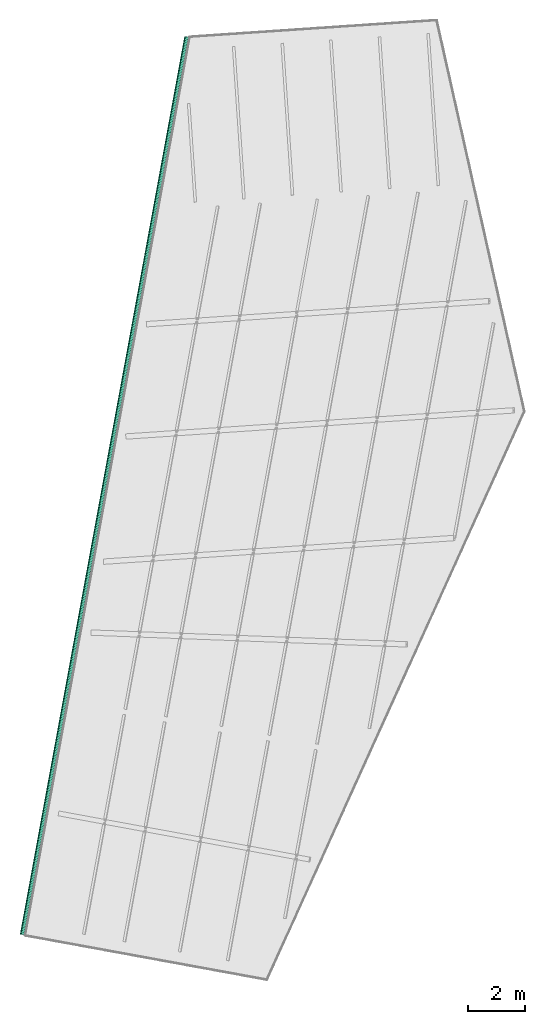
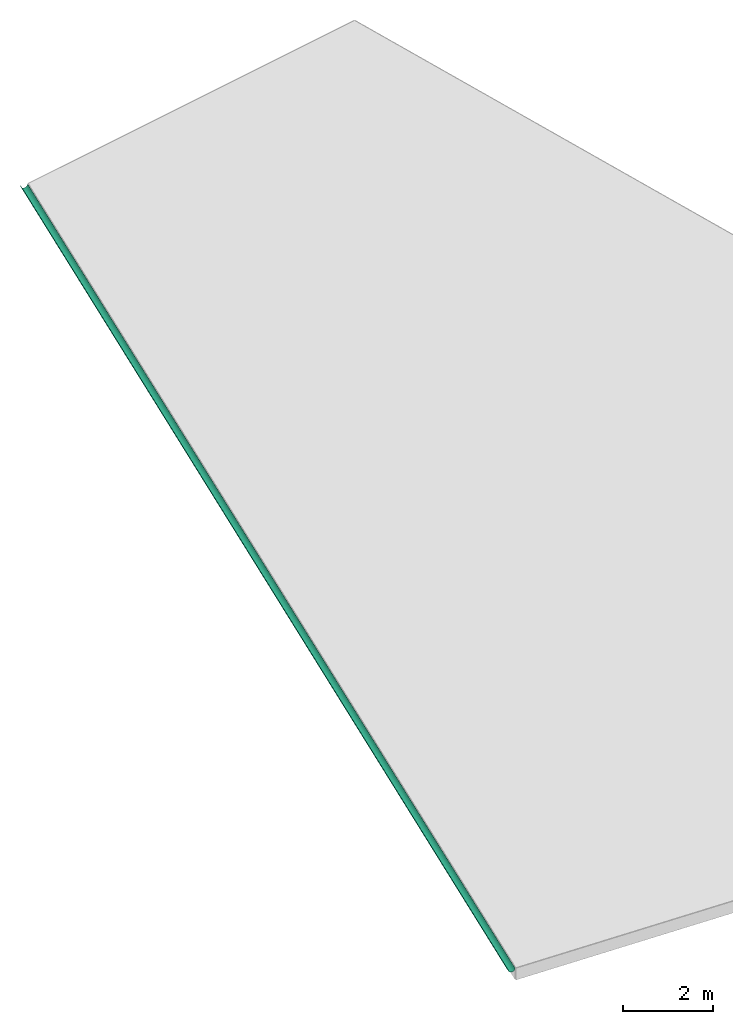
# One storey, part 2 of 3: 1 flow segment.
"""IFC2X3 building model written with IfcOpenShell, lengths in centimetres."""

from ifc_helpers import new_model, entity, si_unit, converted_unit, derived_unit, direction, frame, frame_2d, origin, place, context, subcontext, project, spatial, polyline, circle_curve, parameter, trimmed, segment, composite_curve, outline, extrude, source, transform, mapped, type_object, type_shapes, element, save


model = new_model("IFC2X3")

# Units and contexts
model_context = context("Model", 3, precision=0.001, world=origin(), true_north=direction((6.12303176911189e-17, 1.0)))
body_context = subcontext(model_context, "Body", "Model", "MODEL_VIEW")
ifc_project = project(units=[si_unit("LENGTHUNIT", "METRE", prefix="CENTI"), si_unit("AREAUNIT", "SQUARE_METRE"), si_unit("VOLUMEUNIT", "CUBIC_METRE"), converted_unit("PLANEANGLEUNIT", "DEGREE", entity("IfcRatioMeasure", 0.0174532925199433), si_unit("PLANEANGLEUNIT", "RADIAN"), dimensions=[0, 0, 0, 0, 0, 0, 0]), si_unit("MASSUNIT", "GRAM", prefix="KILO"), derived_unit("MASSDENSITYUNIT", [(si_unit("MASSUNIT", "GRAM", prefix="KILO"), 1), (si_unit("LENGTHUNIT", "METRE"), -3)]), si_unit("TIMEUNIT", "SECOND"), si_unit("FREQUENCYUNIT", "HERTZ"), si_unit("THERMODYNAMICTEMPERATUREUNIT", "DEGREE_CELSIUS"), derived_unit("THERMALTRANSMITTANCEUNIT", [(si_unit("MASSUNIT", "GRAM", prefix="KILO"), 1), (si_unit("THERMODYNAMICTEMPERATUREUNIT", "KELVIN"), -1), (si_unit("TIMEUNIT", "SECOND"), -3)]), derived_unit("VOLUMETRICFLOWRATEUNIT", [(si_unit("LENGTHUNIT", "METRE"), 3), (si_unit("TIMEUNIT", "SECOND"), -1)]), si_unit("ELECTRICCURRENTUNIT", "AMPERE"), si_unit("ELECTRICVOLTAGEUNIT", "VOLT"), si_unit("POWERUNIT", "WATT"), si_unit("FORCEUNIT", "NEWTON", prefix="KILO"), si_unit("ILLUMINANCEUNIT", "LUX"), si_unit("LUMINOUSFLUXUNIT", "LUMEN"), si_unit("LUMINOUSINTENSITYUNIT", "CANDELA"), derived_unit("USERDEFINED", [(si_unit("MASSUNIT", "GRAM", prefix="KILO"), -1), (si_unit("LENGTHUNIT", "METRE"), -2), (si_unit("TIMEUNIT", "SECOND"), 3), (si_unit("LUMINOUSFLUXUNIT", "LUMEN"), 1)]), derived_unit("LINEARVELOCITYUNIT", [(si_unit("LENGTHUNIT", "METRE"), 1), (si_unit("TIMEUNIT", "SECOND"), -1)]), si_unit("PRESSUREUNIT", "PASCAL"), derived_unit("USERDEFINED", [(si_unit("LENGTHUNIT", "METRE"), -2), (si_unit("MASSUNIT", "GRAM", prefix="KILO"), 1), (si_unit("TIMEUNIT", "SECOND"), -2)])], contexts=[model_context])

# Site, building, storey
site_placement = place(None, frame((2611.71187422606, 13650.4058644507, 0.0), z_axis=(0.0, 0.0, 1.0), x_axis=(0.0673222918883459, -0.997731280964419, 0.0)))
site = spatial("IfcSite", under=ifc_project, at=site_placement, Name="Surface", CompositionType="ELEMENT")
building_placement = place(site_placement, origin())
building = spatial("IfcBuilding", under=site, at=building_placement, CompositionType="ELEMENT")
storey_placement = place(building_placement, frame((0.0, 0.0, 87291.0)))
storey = spatial("IfcBuildingStorey", under=building, at=storey_placement, Name="2 Toiture batiment", CompositionType="ELEMENT", Elevation=87291.0)

# Flow segment
pipe_segment_type = type_object("IfcPipeSegmentType", Name="Gouttière:Gouttière demi-ronde 33", PredefinedType="GUTTER")
shared_shape = source(origin(), body_context, "Body", "SweptSolid", [
    extrude(outline(composite_curve([segment(polyline([(-8.14999999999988, -0.224999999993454), (-8.14999999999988, 1.27500000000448)]), True, "CONTINUOUS"), segment(polyline([(-8.14999999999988, 1.27500000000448), (-8.34999999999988, 1.27500000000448)]), True, "CONTINUOUS"), segment(polyline([(-8.34999999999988, 1.27500000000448), (-8.34999999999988, -0.224999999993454)]), True, "CONTINUOUS"), segment(trimmed(circle_curve(frame_2d((-0.149999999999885, -0.224999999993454), x_axis=(1.0, 0.0)), 8.19999999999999), [parameter(180.0)], [parameter(0.0)], True, "PARAMETER"), True, "CONTINUOUS"), segment(trimmed(circle_curve(frame_2d((8.55000000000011, -0.224999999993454), x_axis=(1.0, 0.0)), 0.500000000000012), [parameter(270.0)], [parameter(180.0)], True, "PARAMETER"), False, "CONTINUOUS"), segment(polyline([(8.55000000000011, -0.724999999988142), (8.55000000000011, -0.924999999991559)]), True, "CONTINUOUS"), segment(trimmed(circle_curve(frame_2d((8.55000000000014, -0.224999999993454), x_axis=(1.0, 0.0)), 0.699999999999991), [parameter(270.0)], [parameter(180.0)], True, "PARAMETER"), True, "CONTINUOUS"), segment(trimmed(circle_curve(frame_2d((-0.149999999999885, -0.224999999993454), x_axis=(1.0, 0.0)), 7.99999999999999), [parameter(180.0)], [parameter(0.0)], True, "PARAMETER"), False, "CONTINUOUS")], self_intersect=False)), frame((1917.27979067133, 168.356345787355, 30.9545764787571), z_axis=(-0.969283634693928, 0.245945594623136, 0.0), x_axis=(-0.245945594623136, -0.969283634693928, 0.0)), (0.0, 0.0, -1.0), 3214.12237394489),
])
type_shapes(pipe_segment_type, [shared_shape])
flow_segment_placement = place(storey_placement, origin())
element("IfcFlowSegment", 1, at=flow_segment_placement, inside=storey, type_object=pipe_segment_type, Name="Gouttière:Gouttière demi-ronde 33", ObjectType="Gouttière:Gouttière demi-ronde 33", context=body_context, shape_type="MappedRepresentation", body=[
    mapped(shared_shape, transform((0.0, 0.0, 0.0), scale=1.0)),
])

save(model, "model.ifc")
